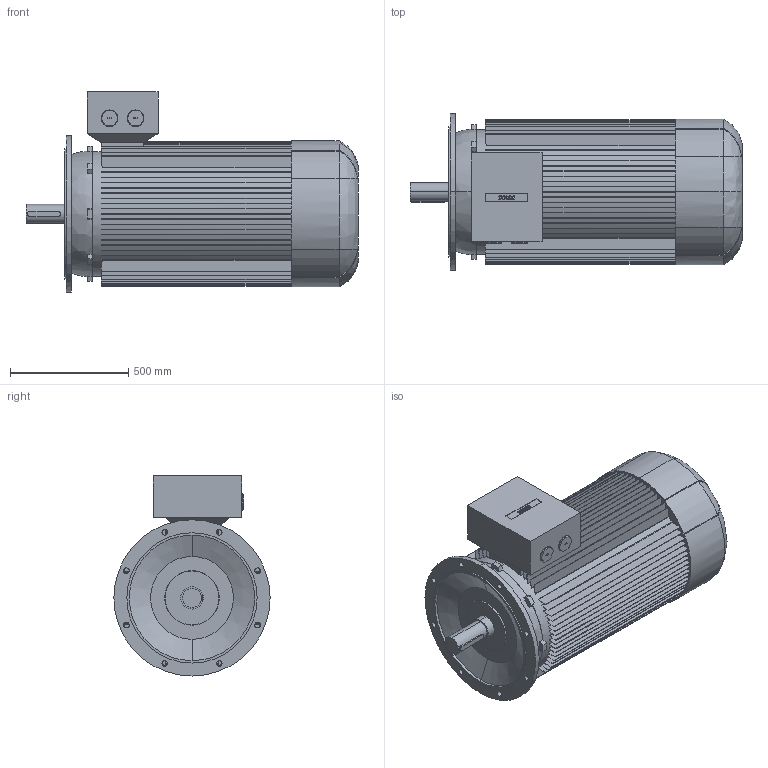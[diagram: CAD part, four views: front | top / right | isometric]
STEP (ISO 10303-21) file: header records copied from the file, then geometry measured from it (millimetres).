
FILE_DESCRIPTION (( 'STEP AP214' ), '1' );
FILE_NAME ('6RN315L04E25 IM3011.STEP', '2014-09-15T12:34:39', ( 'rbc_ict' ), ( 'REGAL' ), 'SwSTEP 2.0', 'SolidWorks 2012', '' );
FILE_SCHEMA (( 'AUTOMOTIVE_DESIGN' ));
Length unit declared in the file: millimetre
Products named in the file (1): 6RN315L04E25 IM3011
Bounding box: 1402 x 660 x 845 mm (x, y, z)
Volume: 310248059.5 mm3; surface area: 8318171.7 mm2
Topology: 1 solids, 1 shells, 644 faces, 1835 edges, 1219 vertices
Faces by surface type: plane 372, cylinder 136, bspline 128, cone 8
Entity records: 25784 total; most frequent: CARTESIAN_POINT 9733, ORIENTED_EDGE 3670, DIRECTION 2918, EDGE_CURVE 1835, VERTEX_POINT 1219, VECTOR 1014, LINE 1014, AXIS2_PLACEMENT_3D 952
